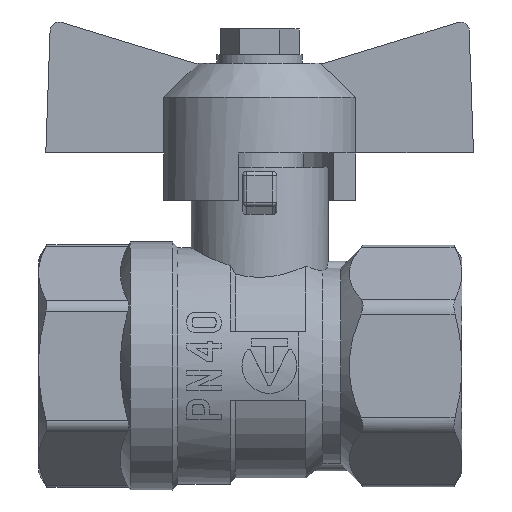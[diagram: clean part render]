
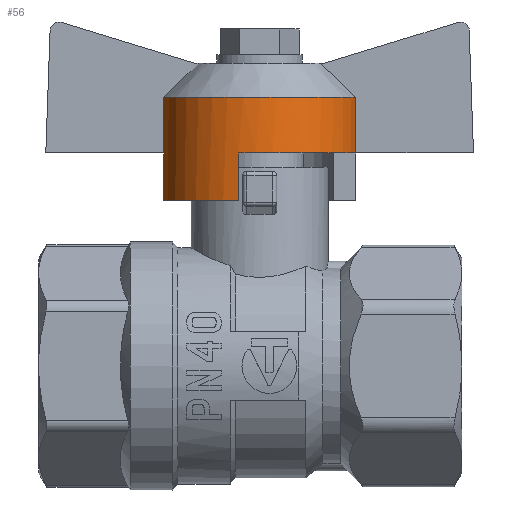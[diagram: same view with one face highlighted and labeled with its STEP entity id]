
A CAD part, front view. The second image highlights one B-rep face of the part: STEP entity #56.
In plain terms, the highlighted cylindrical face has radius 11.5 mm (diameter 23 mm), a partial arc.
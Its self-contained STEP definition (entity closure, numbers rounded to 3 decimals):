
#56=ADVANCED_FACE('',(#383),#385,.T.);
#383=FACE_BOUND('',#384,.T.);
#384=EDGE_LOOP('',(#2714,#2715,#2716,#2717,#2718,#2719,#2720,#2721));
#385=CYLINDRICAL_SURFACE('',#386,11.5);
#386=AXIS2_PLACEMENT_3D('',#387,#388,#389);
#387=CARTESIAN_POINT('',(0.,0.,19.4));
#388=DIRECTION('',(0.,0.,1.));
#389=DIRECTION('',(0.,-1.,0.));
#2714=ORIENTED_EDGE('',*,*,#4266,.T.);
#2715=ORIENTED_EDGE('',*,*,#4267,.T.);
#2716=ORIENTED_EDGE('',*,*,#4268,.T.);
#2717=ORIENTED_EDGE('',*,*,#4255,.T.);
#2718=ORIENTED_EDGE('',*,*,#4269,.F.);
#2719=ORIENTED_EDGE('',*,*,#4270,.F.);
#2720=ORIENTED_EDGE('',*,*,#4271,.F.);
#2721=ORIENTED_EDGE('',*,*,#4243,.F.);
#4243=EDGE_CURVE('',#5020,#5021,#5022,.T.);
#4255=EDGE_CURVE('',#5045,#5043,#5046,.T.);
#4266=EDGE_CURVE('',#5020,#5064,#5065,.F.);
#4267=EDGE_CURVE('',#5064,#5066,#5067,.T.);
#4268=EDGE_CURVE('',#5066,#5045,#5068,.T.);
#4269=EDGE_CURVE('',#5069,#5043,#5070,.F.);
#4270=EDGE_CURVE('',#5071,#5069,#5072,.T.);
#4271=EDGE_CURVE('',#5021,#5071,#5073,.T.);
#5020=VERTEX_POINT('',#6311);
#5021=VERTEX_POINT('',#6312);
#5022=CIRCLE('',#6313,11.5);
#5043=VERTEX_POINT('',#6360);
#5045=VERTEX_POINT('',#6364);
#5046=CIRCLE('',#6365,11.5);
#5064=VERTEX_POINT('',#6410);
#5065=LINE('',#6411,#6412);
#5066=VERTEX_POINT('',#6414);
#5067=CIRCLE('',#6415,11.5);
#5068=LINE('',#6419,#6420);
#5069=VERTEX_POINT('',#6422);
#5070=LINE('',#6423,#6424);
#5071=VERTEX_POINT('',#6426);
#5072=CIRCLE('',#6427,11.5);
#5073=LINE('',#6431,#6432);
#6311=CARTESIAN_POINT('',(-11.236,-2.45,24.9));
#6312=CARTESIAN_POINT('',(-11.225,-2.5,24.9));
#6313=AXIS2_PLACEMENT_3D('',#6314,#6315,#6316);
#6314=CARTESIAN_POINT('',(0.,0.,24.9));
#6315=DIRECTION('',(0.,0.,1.));
#6316=DIRECTION('',(-0.977,-0.213,0.));
#6360=CARTESIAN_POINT('',(11.225,-2.5,24.9));
#6364=CARTESIAN_POINT('',(-2.45,-11.236,24.9));
#6365=AXIS2_PLACEMENT_3D('',#6366,#6367,#6368);
#6366=CARTESIAN_POINT('',(0.,0.,24.9));
#6367=DIRECTION('',(0.,0.,1.));
#6368=DIRECTION('',(-0.213,-0.977,0.));
#6410=CARTESIAN_POINT('',(-11.236,-2.45,19.4));
#6411=CARTESIAN_POINT('',(-11.236,-2.45,19.4));
#6412=VECTOR('',#6413,1.);
#6413=DIRECTION('',(0.,0.,1.));
#6414=CARTESIAN_POINT('',(-2.45,-11.236,19.4));
#6415=AXIS2_PLACEMENT_3D('',#6416,#6417,#6418);
#6416=CARTESIAN_POINT('',(0.,0.,19.4));
#6417=DIRECTION('',(0.,0.,1.));
#6418=DIRECTION('',(-0.977,-0.213,0.));
#6419=CARTESIAN_POINT('',(-2.45,-11.236,19.4));
#6420=VECTOR('',#6421,1.);
#6421=DIRECTION('',(0.,0.,1.));
#6422=CARTESIAN_POINT('',(11.225,-2.5,31.4));
#6423=CARTESIAN_POINT('',(11.225,-2.5,24.9));
#6424=VECTOR('',#6425,1.);
#6425=DIRECTION('',(0.,0.,1.));
#6426=CARTESIAN_POINT('',(-11.225,-2.5,31.4));
#6427=AXIS2_PLACEMENT_3D('',#6428,#6429,#6430);
#6428=CARTESIAN_POINT('',(0.,0.,31.4));
#6429=DIRECTION('',(0.,0.,1.));
#6430=DIRECTION('',(-0.976,-0.217,0.));
#6431=CARTESIAN_POINT('',(-11.225,-2.5,24.9));
#6432=VECTOR('',#6433,1.);
#6433=DIRECTION('',(0.,0.,1.));
